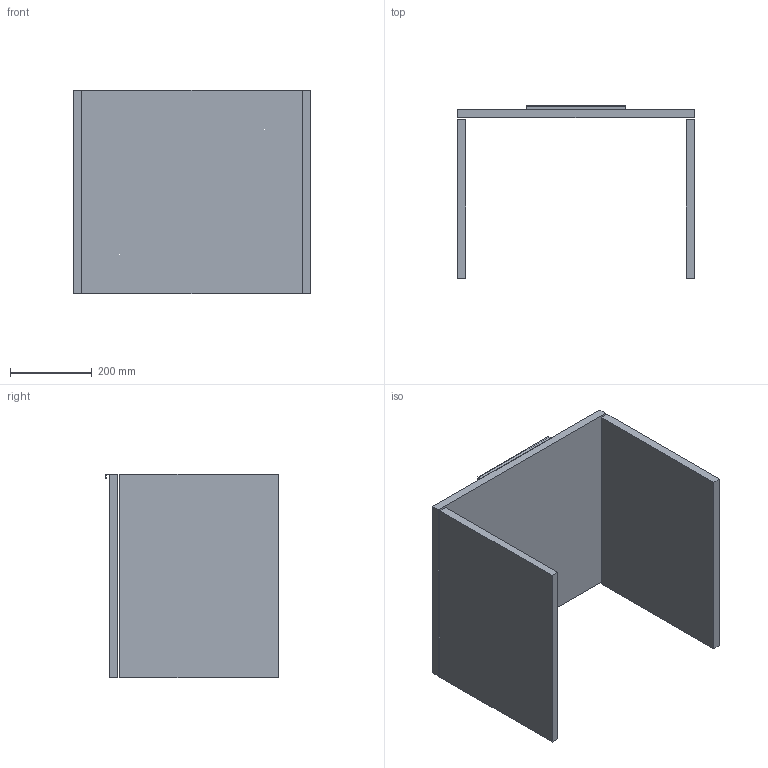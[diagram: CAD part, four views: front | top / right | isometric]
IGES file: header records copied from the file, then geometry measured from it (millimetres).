
Start section: START RECORD GO HERE.
Global section: file name: 5281.igs; native system: DASSAULT SYSTEMES CATIA V5 R19 - www.3ds.com; preprocessor: CATIA Version 5 Release 19 SP 5 ; author: gioge; organization: LAPTOP-G94B6G74; date: 20201002.165123; units: millimetre
Bounding box: 580 x 425 x 500 mm (x, y, z)
Surface area: 1484272 mm2 (no closed solid volume)
Topology: 0 solids, 0 shells, 26 faces, 108 edges, 108 vertices
Faces by surface type: plane 26
